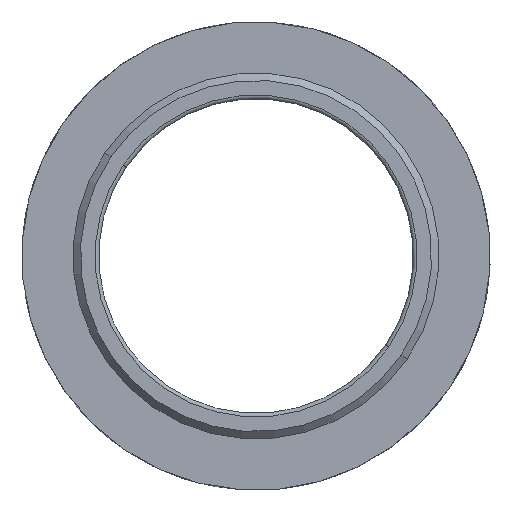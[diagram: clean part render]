
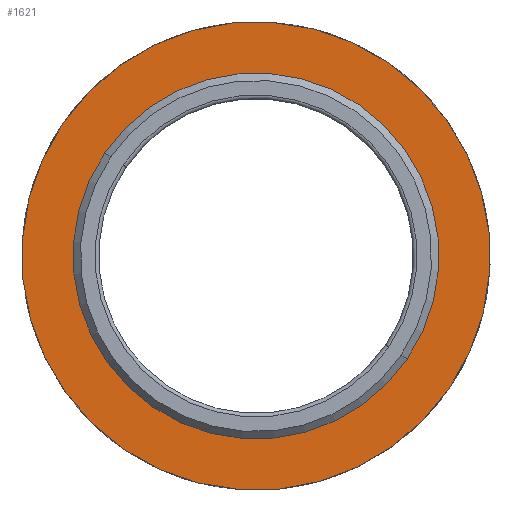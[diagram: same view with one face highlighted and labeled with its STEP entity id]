
A CAD part, front view. The second image highlights one B-rep face of the part: STEP entity #1621.
In plain terms, the highlighted planar face has unit normal (0, -1, 0) as drawn and (0, 0, 1) by its records, which use the part's own axes.
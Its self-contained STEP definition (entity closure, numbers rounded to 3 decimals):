
#1337 = DIRECTION ( 'NONE',  ( -1., 0., 0. ) ) ;
#1343 = VERTEX_POINT ( 'NONE', #3793 ) ;
#1351 = VERTEX_POINT ( 'NONE', #3799 ) ;
#1493 = EDGE_CURVE ( 'NONE', #1496, #1351, #3984, .T. ) ;
#1496 = VERTEX_POINT ( 'NONE', #3935 ) ;
#1500 = EDGE_LOOP ( 'NONE', ( #1561, #1610 ) ) ;
#1561 = ORIENTED_EDGE ( 'NONE', *, *, #1993, .F. ) ;
#1586 = ORIENTED_EDGE ( 'NONE', *, *, #1493, .F. ) ;
#1610 = ORIENTED_EDGE ( 'NONE', *, *, #1719, .F. ) ;
#1615 = EDGE_LOOP ( 'NONE', ( #1586, #1630 ) ) ;
#1621 = ADVANCED_FACE ( 'NONE', ( #4080, #4022 ), #4020, .F. ) ;
#1623 = EDGE_CURVE ( 'NONE', #1351, #1496, #4058, .T. ) ;
#1630 = ORIENTED_EDGE ( 'NONE', *, *, #1623, .F. ) ;
#1719 = EDGE_CURVE ( 'NONE', #1770, #1343, #4149, .T. ) ;
#1770 = VERTEX_POINT ( 'NONE', #4261 ) ;
#1993 = EDGE_CURVE ( 'NONE', #1343, #1770, #4551, .T. ) ;
#3793 = CARTESIAN_POINT ( 'NONE',  ( 32., 0., 0. ) ) ;
#3799 = CARTESIAN_POINT ( 'NONE',  ( -24.25, 0., 0. ) ) ;
#3929 = AXIS2_PLACEMENT_3D ( 'NONE', #3981, #3980, #3979 ) ;
#3935 = CARTESIAN_POINT ( 'NONE',  ( 24.25, 0., 0. ) ) ;
#3979 = DIRECTION ( 'NONE',  ( 1., 0., 0. ) ) ;
#3980 = DIRECTION ( 'NONE',  ( 0., 0., 1. ) ) ;
#3981 = CARTESIAN_POINT ( 'NONE',  ( 0., 0., 0. ) ) ;
#3984 = CIRCLE ( 'NONE', #3929, 24.25 ) ;
#4020 = PLANE ( 'NONE',  #4064 ) ;
#4022 = FACE_BOUND ( 'NONE', #1615, .T. ) ;
#4054 = AXIS2_PLACEMENT_3D ( 'NONE', #4056, #4112, #4111 ) ;
#4056 = CARTESIAN_POINT ( 'NONE',  ( 0., 0., 0. ) ) ;
#4058 = CIRCLE ( 'NONE', #4054, 24.25 ) ;
#4064 = AXIS2_PLACEMENT_3D ( 'NONE', #4071, #4075, #4074 ) ;
#4071 = CARTESIAN_POINT ( 'NONE',  ( 0., 0., 0. ) ) ;
#4074 = DIRECTION ( 'NONE',  ( -1., 0., 0. ) ) ;
#4075 = DIRECTION ( 'NONE',  ( 0., 0., -1. ) ) ;
#4080 = FACE_OUTER_BOUND ( 'NONE', #1500, .T. ) ;
#4111 = DIRECTION ( 'NONE',  ( 1., 0., 0. ) ) ;
#4112 = DIRECTION ( 'NONE',  ( 0., 0., 1. ) ) ;
#4146 = DIRECTION ( 'NONE',  ( 0., 0., -1. ) ) ;
#4147 = CARTESIAN_POINT ( 'NONE',  ( 0., 0., 0. ) ) ;
#4148 = AXIS2_PLACEMENT_3D ( 'NONE', #4147, #4146, #1337 ) ;
#4149 = CIRCLE ( 'NONE', #4148, 32. ) ;
#4261 = CARTESIAN_POINT ( 'NONE',  ( -32., 0., 0. ) ) ;
#4547 = DIRECTION ( 'NONE',  ( -1., 0., 0. ) ) ;
#4548 = DIRECTION ( 'NONE',  ( 0., 0., -1. ) ) ;
#4549 = CARTESIAN_POINT ( 'NONE',  ( 0., 0., 0. ) ) ;
#4550 = AXIS2_PLACEMENT_3D ( 'NONE', #4549, #4548, #4547 ) ;
#4551 = CIRCLE ( 'NONE', #4550, 32. ) ;
